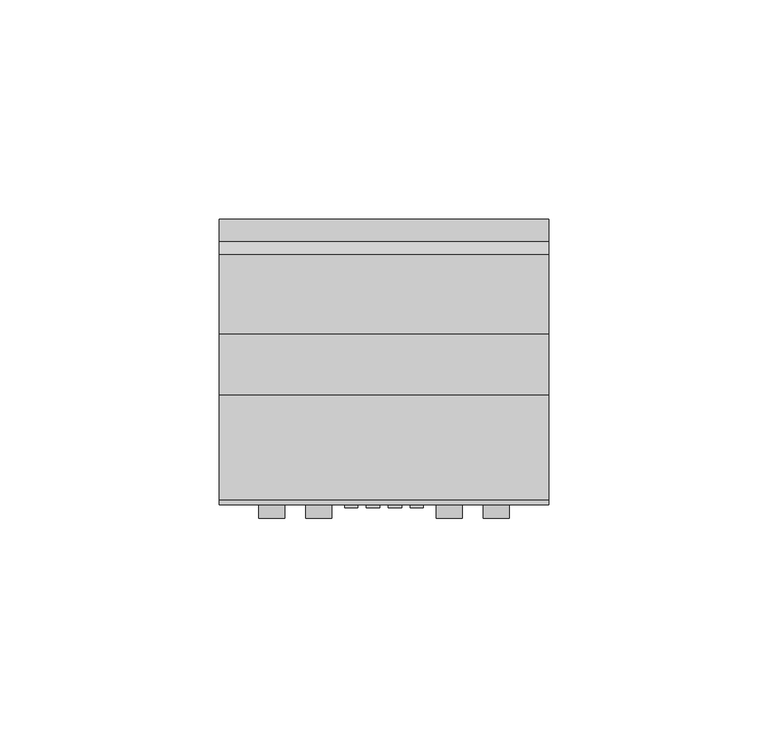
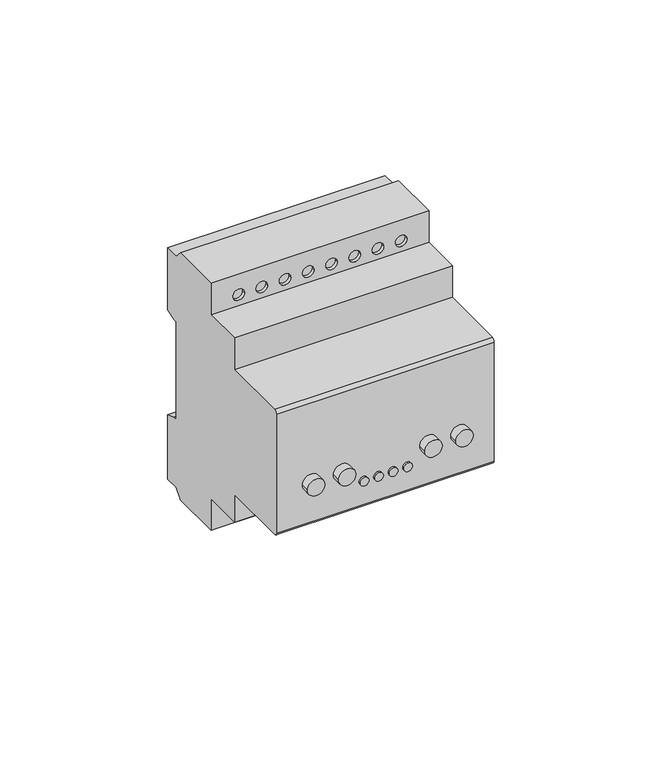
"""IFC4 building model written with IfcOpenShell, lengths in millimetres: proxy geometry, TDM_ПЕРЕКЛЮЧАТЕЛЬ ФАЗ ПФ-01 : 3х16А."""

from ifc_helpers import new_model, si_unit, point, frame, frame_2d, origin, place, context, project, spatial, polyline, circle_curve, trimmed, segment, composite_curve, outline, extrude, source, transform, mapped, element, save
from ifc_brep_helpers import plane_surface, cylinder_surface, revolved_surface, advanced_brep


def electrical_equipment_bae947ff(model_context):
    return source(origin(), model_context, "Body", "SolidModel", [
        extrude(outline(composite_curve([segment(trimmed(circle_curve(frame_2d((-13.7512085, -2.5)), 1.5), [point((-13.7512085, -4.0))], [point((-13.7512085, -1.0))], False, "CARTESIAN"), True, "CONTINUOUS"), segment(trimmed(circle_curve(frame_2d((-13.7512085, -2.5)), 1.5), [point((-13.7512085, -1.0))], [point((-13.7512085, -4.0))], False, "CARTESIAN"), True, "CONTINUOUS")], self_intersect=False)), frame((0.0, -28.1760611, 0.0), z_axis=(0.0, 1.0, 0.0), x_axis=(0.0, 0.0, 1.0)), (0.0, 0.0, 1.0), 0.6760611),
        extrude(outline(composite_curve([segment(trimmed(circle_curve(frame_2d((-13.7512085, -7.5)), 1.5), [point((-13.7512085, -9.0))], [point((-13.7512085, -6.0))], False, "CARTESIAN"), True, "CONTINUOUS"), segment(trimmed(circle_curve(frame_2d((-13.7512085, -7.5)), 1.5), [point((-13.7512085, -6.0))], [point((-13.7512085, -9.0))], False, "CARTESIAN"), True, "CONTINUOUS")], self_intersect=False)), frame((0.0, -28.1760611, 0.0), z_axis=(0.0, 1.0, 0.0), x_axis=(0.0, 0.0, 1.0)), (0.0, 0.0, 1.0), 0.6760611),
        extrude(outline(composite_curve([segment(trimmed(circle_curve(frame_2d((-13.7512085, 2.5)), 1.5), [point((-13.7512085, 4.0))], [point((-13.7512085, 1.0))], False, "CARTESIAN"), True, "CONTINUOUS"), segment(trimmed(circle_curve(frame_2d((-13.7512085, 2.5)), 1.5), [point((-13.7512085, 1.0))], [point((-13.7512085, 4.0))], False, "CARTESIAN"), True, "CONTINUOUS")], self_intersect=False)), frame((0.0, -28.1760611, 0.0), z_axis=(0.0, 1.0, 0.0), x_axis=(0.0, 0.0, 1.0)), (0.0, 0.0, 1.0), 0.6760611),
        extrude(outline(composite_curve([segment(trimmed(circle_curve(frame_2d((-13.7512085, 7.5)), 1.5), [point((-13.7512085, 9.0))], [point((-13.7512085, 6.0))], False, "CARTESIAN"), True, "CONTINUOUS"), segment(trimmed(circle_curve(frame_2d((-13.7512085, 7.5)), 1.5), [point((-13.7512085, 6.0))], [point((-13.7512085, 9.0))], False, "CARTESIAN"), True, "CONTINUOUS")], self_intersect=False)), frame((0.0, -28.1760611, 0.0), z_axis=(0.0, 1.0, 0.0), x_axis=(0.0, 0.0, 1.0)), (0.0, 0.0, 1.0), 0.6760611),
        extrude(outline(composite_curve([segment(trimmed(circle_curve(frame_2d((-8.0631041, 14.875)), 3.0), [point((-8.0631041, 17.875))], [point((-8.0631041, 11.875))], False, "CARTESIAN"), True, "CONTINUOUS"), segment(trimmed(circle_curve(frame_2d((-8.0631041, 14.875)), 3.0), [point((-8.0631041, 11.875))], [point((-8.0631041, 17.875))], False, "CARTESIAN"), True, "CONTINUOUS")], self_intersect=False)), frame((0.0, -30.5593993, 0.0), z_axis=(0.0, 1.0, 0.0), x_axis=(0.0, 0.0, 1.0)), (0.0, 0.0, 1.0), 3.0593993),
        extrude(outline(composite_curve([segment(trimmed(circle_curve(frame_2d((-8.0631041, 25.5625)), 3.0), [point((-8.0631041, 28.5625))], [point((-8.0631041, 22.5625))], False, "CARTESIAN"), True, "CONTINUOUS"), segment(trimmed(circle_curve(frame_2d((-8.0631041, 25.5625)), 3.0), [point((-8.0631041, 22.5625))], [point((-8.0631041, 28.5625))], False, "CARTESIAN"), True, "CONTINUOUS")], self_intersect=False)), frame((0.0, -30.5593993, 0.0), z_axis=(0.0, 1.0, 0.0), x_axis=(0.0, 0.0, 1.0)), (0.0, 0.0, 1.0), 3.0593993),
        extrude(outline(composite_curve([segment(trimmed(circle_curve(frame_2d((-8.0631041, -14.875)), 3.0), [point((-8.0631041, -17.875))], [point((-8.0631041, -11.875))], False, "CARTESIAN"), True, "CONTINUOUS"), segment(trimmed(circle_curve(frame_2d((-8.0631041, -14.875)), 3.0), [point((-8.0631041, -11.875))], [point((-8.0631041, -17.875))], False, "CARTESIAN"), True, "CONTINUOUS")], self_intersect=False)), frame((0.0, -30.5593993, 0.0), z_axis=(0.0, 1.0, 0.0), x_axis=(0.0, 0.0, 1.0)), (0.0, 0.0, 1.0), 3.0593993),
        extrude(outline(composite_curve([segment(trimmed(circle_curve(frame_2d((-8.0631041, -25.5625)), 3.0), [point((-8.0631041, -28.5625))], [point((-8.0631041, -22.5625))], False, "CARTESIAN"), True, "CONTINUOUS"), segment(trimmed(circle_curve(frame_2d((-8.0631041, -25.5625)), 3.0), [point((-8.0631041, -22.5625))], [point((-8.0631041, -28.5625))], False, "CARTESIAN"), True, "CONTINUOUS")], self_intersect=False)), frame((0.0, -30.5593993, 0.0), z_axis=(0.0, 1.0, 0.0), x_axis=(0.0, 0.0, 1.0)), (0.0, 0.0, 1.0), 3.0593993),
        extrude(outline(polyline([(37.0, 16.6821204), (37.0, 13.0294857), (-37.0, 13.0294857), (-37.0, 16.6821204), (37.0, 16.6821204)])), frame((0.0, 0.0, -44.0625), z_axis=(0.0, 0.0, 1.0), x_axis=(1.0, 0.0, 0.0)), (0.0, 0.0, 1.0), 87.8126081),
        advanced_brep(
        [(37.5, 32.5, 18.2057143), (37.5, 33.6916264, 18.2057143), (37.5, 37.5, 19.591849), (37.5, 37.5, 42.1013652), (37.5, 32.5, 42.1013652), (37.5, 29.6013652, 45.0), (37.5, 11.5, 45.0), (37.5, 11.5, 33.5280507), (37.5, -2.5, 33.5280507), (37.5, -2.5, 22.0), (37.5, -26.3777313, 22.0), (37.5, -27.5, 20.8777313), (37.5, -27.5, -22.3875602), (37.5, -26.3875602, -23.5), (37.5, -2.5, -23.5), (37.5, -2.5, -33.5280507), (37.5, 11.5, -33.5280507), (37.5, 11.5, -45.0), (37.5, 29.6013652, -45.0), (37.5, 32.5, -42.1013652), (37.5, 37.5, -42.1013652), (37.5, 37.5, -18.654349), (37.5, 33.7632568, -17.2942857), (37.5, 32.5, -17.2942857), (-37.5, 32.5, 18.2057143), (-37.5, 32.5, -17.2942857), (-37.5, 33.7632568, -17.2942857), (-37.5, 37.5, -18.654349), (-37.5, 37.5, -42.1013652), (-37.5, 32.5, -42.1013652), (-37.5, 29.6013652, -45.0), (-37.5, 11.5, -45.0), (-37.5, 11.5, -33.5280507), (-37.5, -2.5, -33.5280507), (-37.5, -2.5, -23.5), (-37.5, -26.3875602, -23.5), (-37.5, -27.5, -22.3875602), (-37.5, -27.5, 20.8777313), (-37.5, -26.3777313, 22.0), (-37.5, -2.5, 22.0), (-37.5, -2.5, 33.5280507), (-37.5, 11.5, 33.5280507), (-37.5, 11.5, 45.0), (-37.5, 29.6013652, 45.0), (-37.5, 32.5, 42.1013652), (-37.5, 37.5, 42.1013652), (-37.5, 37.5, 19.591849), (-37.5, 33.6916264, 18.2057143), (-2.0, 14.3335884, 37.4385116), (-6.0, 14.3335884, 37.4385116), (2.0, 14.3335884, 37.4385116), (6.0, 14.3335884, 37.4385116), (10.0, 14.3335884, 37.4385116), (14.0, 14.3335884, 37.4385116), (18.0, 14.3335884, 37.4385116), (22.0, 14.3335884, 37.4385116), (26.0, 14.3335884, 37.4385116), (30.0, 14.3335884, 37.4385116), (-10.0, 14.3335884, 37.4385116), (-14.0, 14.3335884, 37.4385116), (-18.0, 14.3335884, 37.4385116), (-22.0, 14.3335884, 37.4385116), (-26.0, 14.3335884, 37.4385116), (-30.0, 14.3335884, 37.4385116), (4.5, 14.3335884, -37.4385116), (0.5, 14.3335884, -37.4385116), (9.5, 14.3335884, -37.4385116), (5.5, 14.3335884, -37.4385116), (14.5, 14.3335884, -37.4385116), (10.5, 14.3335884, -37.4385116), (19.5, 14.3335884, -37.4385116), (15.5, 14.3335884, -37.4385116), (24.5, 14.3335884, -37.4385116), (20.5, 14.3335884, -37.4385116), (29.5, 14.3335884, -37.4385116), (25.5, 14.3335884, -37.4385116), (-4.5, 14.3335884, -37.4385116), (-0.5, 14.3335884, -37.4385116), (-9.5, 14.3335884, -37.4385116), (-5.5, 14.3335884, -37.4385116), (-14.5, 14.3335884, -37.4385116), (-10.5, 14.3335884, -37.4385116), (-19.5, 14.3335884, -37.4385116), (-15.5, 14.3335884, -37.4385116), (-24.5, 14.3335884, -37.4385116), (-20.5, 14.3335884, -37.4385116), (-29.5, 14.3335884, -37.4385116), (-25.5, 14.3335884, -37.4385116), (-6.0, 11.5, 37.4385116), (-2.0, 11.5, 37.4385116), (6.0, 11.5, 37.4385116), (2.0, 11.5, 37.4385116), (14.0, 11.5, 37.4385116), (10.0, 11.5, 37.4385116), (22.0, 11.5, 37.4385116), (18.0, 11.5, 37.4385116), (30.0, 11.5, 37.4385116), (26.0, 11.5, 37.4385116), (-14.0, 11.5, 37.4385116), (-10.0, 11.5, 37.4385116), (-22.0, 11.5, 37.4385116), (-18.0, 11.5, 37.4385116), (-30.0, 11.5, 37.4385116), (-26.0, 11.5, 37.4385116), (0.5, 11.5, -37.4385116), (4.5, 11.5, -37.4385116), (5.5, 11.5, -37.4385116), (9.5, 11.5, -37.4385116), (10.5, 11.5, -37.4385116), (14.5, 11.5, -37.4385116), (15.5, 11.5, -37.4385116), (19.5, 11.5, -37.4385116), (20.5, 11.5, -37.4385116), (24.5, 11.5, -37.4385116), (25.5, 11.5, -37.4385116), (29.5, 11.5, -37.4385116), (-0.5, 11.5, -37.4385116), (-4.5, 11.5, -37.4385116), (-5.5, 11.5, -37.4385116), (-9.5, 11.5, -37.4385116), (-10.5, 11.5, -37.4385116), (-14.5, 11.5, -37.4385116), (-15.5, 11.5, -37.4385116), (-19.5, 11.5, -37.4385116), (-20.5, 11.5, -37.4385116), (-24.5, 11.5, -37.4385116), (-25.5, 11.5, -37.4385116), (-29.5, 11.5, -37.4385116)],
        [
            (0, 1),
            (1, 2),
            (2, 3),
            (3, 4),
            (4, 5),
            (5, 6),
            (6, 7),
            (7, 8),
            (8, 9),
            (9, 10),
            (10, 11, circle_curve(frame((37.5, -26.3777313, 20.8777313), z_axis=(1.0, 0.0, 0.0), x_axis=(0.0, -1.0, 0.0)), 1.1222687)),
            (11, 12),
            (12, 13, circle_curve(frame((37.5, -26.3875602, -22.3875602), z_axis=(1.0, 0.0, 0.0), x_axis=(0.0, -1.0, 0.0)), 1.1124398)),
            (13, 14),
            (14, 15),
            (15, 16),
            (16, 17),
            (17, 18),
            (18, 19),
            (19, 20),
            (20, 21),
            (21, 22),
            (22, 23),
            (23, 0),
            (24, 25),
            (25, 26),
            (26, 27),
            (27, 28),
            (28, 29),
            (29, 30),
            (30, 31),
            (31, 32),
            (32, 33),
            (33, 34),
            (34, 35),
            (35, 36, circle_curve(frame((-37.5, -26.3875602, -22.3875602), z_axis=(-1.0, 0.0, 0.0), x_axis=(0.0, -1.0, 0.0)), 1.1124398)),
            (36, 37),
            (37, 38, circle_curve(frame((-37.5, -26.3777313, 20.8777313), z_axis=(-1.0, 0.0, 0.0), x_axis=(0.0, -1.0, 0.0)), 1.1222687)),
            (38, 39),
            (39, 40),
            (40, 41),
            (41, 42),
            (42, 43),
            (43, 44),
            (44, 45),
            (45, 46),
            (46, 47),
            (47, 24),
            (0, 24),
            (47, 1),
            (2, 46),
            (45, 3),
            (9, 39),
            (38, 10),
            (37, 11),
            (36, 12),
            (13, 35),
            (34, 14),
            (17, 31),
            (30, 18),
            (20, 28),
            (27, 21),
            (22, 26),
            (25, 23),
            (48, 49, circle_curve(frame((-4.0, 14.3335884, 37.4385116), z_axis=(0.0, -1.0, 0.0), x_axis=(-1.0, 0.0, 0.0)), 2.0)),
            (49, 48, circle_curve(frame((-4.0, 14.3335884, 37.4385116), z_axis=(0.0, -1.0, 0.0), x_axis=(-1.0, 0.0, 0.0)), 2.0)),
            (50, 51, circle_curve(frame((4.0, 14.3335884, 37.4385116), z_axis=(0.0, -1.0, 0.0), x_axis=(1.0, 0.0, 0.0)), 2.0)),
            (51, 50, circle_curve(frame((4.0, 14.3335884, 37.4385116), z_axis=(0.0, -1.0, 0.0), x_axis=(1.0, 0.0, 0.0)), 2.0)),
            (52, 53, circle_curve(frame((12.0, 14.3335884, 37.4385116), z_axis=(0.0, -1.0, 0.0), x_axis=(1.0, 0.0, 0.0)), 2.0)),
            (53, 52, circle_curve(frame((12.0, 14.3335884, 37.4385116), z_axis=(0.0, -1.0, 0.0), x_axis=(1.0, 0.0, 0.0)), 2.0)),
            (54, 55, circle_curve(frame((20.0, 14.3335884, 37.4385116), z_axis=(0.0, -1.0, 0.0), x_axis=(1.0, 0.0, 0.0)), 2.0)),
            (55, 54, circle_curve(frame((20.0, 14.3335884, 37.4385116), z_axis=(0.0, -1.0, 0.0), x_axis=(1.0, 0.0, 0.0)), 2.0)),
            (56, 57, circle_curve(frame((28.0, 14.3335884, 37.4385116), z_axis=(0.0, -1.0, 0.0), x_axis=(1.0, 0.0, 0.0)), 2.0)),
            (57, 56, circle_curve(frame((28.0, 14.3335884, 37.4385116), z_axis=(0.0, -1.0, 0.0), x_axis=(1.0, 0.0, 0.0)), 2.0)),
            (58, 59, circle_curve(frame((-12.0, 14.3335884, 37.4385116), z_axis=(0.0, -1.0, 0.0), x_axis=(-1.0, 0.0, 0.0)), 2.0)),
            (59, 58, circle_curve(frame((-12.0, 14.3335884, 37.4385116), z_axis=(0.0, -1.0, 0.0), x_axis=(-1.0, 0.0, 0.0)), 2.0)),
            (60, 61, circle_curve(frame((-20.0, 14.3335884, 37.4385116), z_axis=(0.0, -1.0, 0.0), x_axis=(-1.0, 0.0, 0.0)), 2.0)),
            (61, 60, circle_curve(frame((-20.0, 14.3335884, 37.4385116), z_axis=(0.0, -1.0, 0.0), x_axis=(-1.0, 0.0, 0.0)), 2.0)),
            (62, 63, circle_curve(frame((-28.0, 14.3335884, 37.4385116), z_axis=(0.0, -1.0, 0.0), x_axis=(-1.0, 0.0, 0.0)), 2.0)),
            (63, 62, circle_curve(frame((-28.0, 14.3335884, 37.4385116), z_axis=(0.0, -1.0, 0.0), x_axis=(-1.0, 0.0, 0.0)), 2.0)),
            (64, 65, circle_curve(frame((2.5, 14.3335884, -37.4385116), z_axis=(0.0, -1.0, 0.0), x_axis=(-1.0, 0.0, 0.0)), 2.0)),
            (65, 64, circle_curve(frame((2.5, 14.3335884, -37.4385116), z_axis=(0.0, -1.0, 0.0), x_axis=(-1.0, 0.0, 0.0)), 2.0)),
            (66, 67, circle_curve(frame((7.5, 14.3335884, -37.4385116), z_axis=(0.0, -1.0, 0.0), x_axis=(-1.0, 0.0, 0.0)), 2.0)),
            (67, 66, circle_curve(frame((7.5, 14.3335884, -37.4385116), z_axis=(0.0, -1.0, 0.0), x_axis=(-1.0, 0.0, 0.0)), 2.0)),
            (68, 69, circle_curve(frame((12.5, 14.3335884, -37.4385116), z_axis=(0.0, -1.0, 0.0), x_axis=(-1.0, 0.0, 0.0)), 2.0)),
            (69, 68, circle_curve(frame((12.5, 14.3335884, -37.4385116), z_axis=(0.0, -1.0, 0.0), x_axis=(-1.0, 0.0, 0.0)), 2.0)),
            (70, 71, circle_curve(frame((17.5, 14.3335884, -37.4385116), z_axis=(0.0, -1.0, 0.0), x_axis=(-1.0, 0.0, 0.0)), 2.0)),
            (71, 70, circle_curve(frame((17.5, 14.3335884, -37.4385116), z_axis=(0.0, -1.0, 0.0), x_axis=(-1.0, 0.0, 0.0)), 2.0)),
            (72, 73, circle_curve(frame((22.5, 14.3335884, -37.4385116), z_axis=(0.0, -1.0, 0.0), x_axis=(-1.0, 0.0, 0.0)), 2.0)),
            (73, 72, circle_curve(frame((22.5, 14.3335884, -37.4385116), z_axis=(0.0, -1.0, 0.0), x_axis=(-1.0, 0.0, 0.0)), 2.0)),
            (74, 75, circle_curve(frame((27.5, 14.3335884, -37.4385116), z_axis=(0.0, -1.0, 0.0), x_axis=(-1.0, 0.0, 0.0)), 2.0)),
            (75, 74, circle_curve(frame((27.5, 14.3335884, -37.4385116), z_axis=(0.0, -1.0, 0.0), x_axis=(-1.0, 0.0, 0.0)), 2.0)),
            (76, 77, circle_curve(frame((-2.5, 14.3335884, -37.4385116), z_axis=(0.0, -1.0, 0.0), x_axis=(1.0, 0.0, 0.0)), 2.0)),
            (77, 76, circle_curve(frame((-2.5, 14.3335884, -37.4385116), z_axis=(0.0, -1.0, 0.0), x_axis=(1.0, 0.0, 0.0)), 2.0)),
            (78, 79, circle_curve(frame((-7.5, 14.3335884, -37.4385116), z_axis=(0.0, -1.0, 0.0), x_axis=(1.0, 0.0, 0.0)), 2.0)),
            (79, 78, circle_curve(frame((-7.5, 14.3335884, -37.4385116), z_axis=(0.0, -1.0, 0.0), x_axis=(1.0, 0.0, 0.0)), 2.0)),
            (80, 81, circle_curve(frame((-12.5, 14.3335884, -37.4385116), z_axis=(0.0, -1.0, 0.0), x_axis=(1.0, 0.0, 0.0)), 2.0)),
            (81, 80, circle_curve(frame((-12.5, 14.3335884, -37.4385116), z_axis=(0.0, -1.0, 0.0), x_axis=(1.0, 0.0, 0.0)), 2.0)),
            (82, 83, circle_curve(frame((-17.5, 14.3335884, -37.4385116), z_axis=(0.0, -1.0, 0.0), x_axis=(1.0, 0.0, 0.0)), 2.0)),
            (83, 82, circle_curve(frame((-17.5, 14.3335884, -37.4385116), z_axis=(0.0, -1.0, 0.0), x_axis=(1.0, 0.0, 0.0)), 2.0)),
            (84, 85, circle_curve(frame((-22.5, 14.3335884, -37.4385116), z_axis=(0.0, -1.0, 0.0), x_axis=(1.0, 0.0, 0.0)), 2.0)),
            (85, 84, circle_curve(frame((-22.5, 14.3335884, -37.4385116), z_axis=(0.0, -1.0, 0.0), x_axis=(1.0, 0.0, 0.0)), 2.0)),
            (86, 87, circle_curve(frame((-27.5, 14.3335884, -37.4385116), z_axis=(0.0, -1.0, 0.0), x_axis=(1.0, 0.0, 0.0)), 2.0)),
            (87, 86, circle_curve(frame((-27.5, 14.3335884, -37.4385116), z_axis=(0.0, -1.0, 0.0), x_axis=(1.0, 0.0, 0.0)), 2.0)),
            (6, 42),
            (41, 7),
            (88, 89, circle_curve(frame((-4.0, 11.5, 37.4385116), z_axis=(0.0, 1.0, 0.0), x_axis=(-1.0, 0.0, 0.0)), 2.0)),
            (89, 88, circle_curve(frame((-4.0, 11.5, 37.4385116), z_axis=(0.0, 1.0, 0.0), x_axis=(-1.0, 0.0, 0.0)), 2.0)),
            (90, 91, circle_curve(frame((4.0, 11.5, 37.4385116), z_axis=(0.0, 1.0, 0.0), x_axis=(1.0, 0.0, 0.0)), 2.0)),
            (91, 90, circle_curve(frame((4.0, 11.5, 37.4385116), z_axis=(0.0, 1.0, 0.0), x_axis=(1.0, 0.0, 0.0)), 2.0)),
            (92, 93, circle_curve(frame((12.0, 11.5, 37.4385116), z_axis=(0.0, 1.0, 0.0), x_axis=(1.0, 0.0, 0.0)), 2.0)),
            (93, 92, circle_curve(frame((12.0, 11.5, 37.4385116), z_axis=(0.0, 1.0, 0.0), x_axis=(1.0, 0.0, 0.0)), 2.0)),
            (94, 95, circle_curve(frame((20.0, 11.5, 37.4385116), z_axis=(0.0, 1.0, 0.0), x_axis=(1.0, 0.0, 0.0)), 2.0)),
            (95, 94, circle_curve(frame((20.0, 11.5, 37.4385116), z_axis=(0.0, 1.0, 0.0), x_axis=(1.0, 0.0, 0.0)), 2.0)),
            (96, 97, circle_curve(frame((28.0, 11.5, 37.4385116), z_axis=(0.0, 1.0, 0.0), x_axis=(1.0, 0.0, 0.0)), 2.0)),
            (97, 96, circle_curve(frame((28.0, 11.5, 37.4385116), z_axis=(0.0, 1.0, 0.0), x_axis=(1.0, 0.0, 0.0)), 2.0)),
            (98, 99, circle_curve(frame((-12.0, 11.5, 37.4385116), z_axis=(0.0, 1.0, 0.0), x_axis=(-1.0, 0.0, 0.0)), 2.0)),
            (99, 98, circle_curve(frame((-12.0, 11.5, 37.4385116), z_axis=(0.0, 1.0, 0.0), x_axis=(-1.0, 0.0, 0.0)), 2.0)),
            (100, 101, circle_curve(frame((-20.0, 11.5, 37.4385116), z_axis=(0.0, 1.0, 0.0), x_axis=(-1.0, 0.0, 0.0)), 2.0)),
            (101, 100, circle_curve(frame((-20.0, 11.5, 37.4385116), z_axis=(0.0, 1.0, 0.0), x_axis=(-1.0, 0.0, 0.0)), 2.0)),
            (102, 103, circle_curve(frame((-28.0, 11.5, 37.4385116), z_axis=(0.0, 1.0, 0.0), x_axis=(-1.0, 0.0, 0.0)), 2.0)),
            (103, 102, circle_curve(frame((-28.0, 11.5, 37.4385116), z_axis=(0.0, 1.0, 0.0), x_axis=(-1.0, 0.0, 0.0)), 2.0)),
            (40, 8),
            (33, 15),
            (32, 16),
            (104, 105, circle_curve(frame((2.5, 11.5, -37.4385116), z_axis=(0.0, 1.0, 0.0), x_axis=(-1.0, 0.0, 0.0)), 2.0)),
            (105, 104, circle_curve(frame((2.5, 11.5, -37.4385116), z_axis=(0.0, 1.0, 0.0), x_axis=(-1.0, 0.0, 0.0)), 2.0)),
            (106, 107, circle_curve(frame((7.5, 11.5, -37.4385116), z_axis=(0.0, 1.0, 0.0), x_axis=(-1.0, 0.0, 0.0)), 2.0)),
            (107, 106, circle_curve(frame((7.5, 11.5, -37.4385116), z_axis=(0.0, 1.0, 0.0), x_axis=(-1.0, 0.0, 0.0)), 2.0)),
            (108, 109, circle_curve(frame((12.5, 11.5, -37.4385116), z_axis=(0.0, 1.0, 0.0), x_axis=(-1.0, 0.0, 0.0)), 2.0)),
            (109, 108, circle_curve(frame((12.5, 11.5, -37.4385116), z_axis=(0.0, 1.0, 0.0), x_axis=(-1.0, 0.0, 0.0)), 2.0)),
            (110, 111, circle_curve(frame((17.5, 11.5, -37.4385116), z_axis=(0.0, 1.0, 0.0), x_axis=(-1.0, 0.0, 0.0)), 2.0)),
            (111, 110, circle_curve(frame((17.5, 11.5, -37.4385116), z_axis=(0.0, 1.0, 0.0), x_axis=(-1.0, 0.0, 0.0)), 2.0)),
            (112, 113, circle_curve(frame((22.5, 11.5, -37.4385116), z_axis=(0.0, 1.0, 0.0), x_axis=(-1.0, 0.0, 0.0)), 2.0)),
            (113, 112, circle_curve(frame((22.5, 11.5, -37.4385116), z_axis=(0.0, 1.0, 0.0), x_axis=(-1.0, 0.0, 0.0)), 2.0)),
            (114, 115, circle_curve(frame((27.5, 11.5, -37.4385116), z_axis=(0.0, 1.0, 0.0), x_axis=(-1.0, 0.0, 0.0)), 2.0)),
            (115, 114, circle_curve(frame((27.5, 11.5, -37.4385116), z_axis=(0.0, 1.0, 0.0), x_axis=(-1.0, 0.0, 0.0)), 2.0)),
            (116, 117, circle_curve(frame((-2.5, 11.5, -37.4385116), z_axis=(0.0, 1.0, 0.0), x_axis=(1.0, 0.0, 0.0)), 2.0)),
            (117, 116, circle_curve(frame((-2.5, 11.5, -37.4385116), z_axis=(0.0, 1.0, 0.0), x_axis=(1.0, 0.0, 0.0)), 2.0)),
            (118, 119, circle_curve(frame((-7.5, 11.5, -37.4385116), z_axis=(0.0, 1.0, 0.0), x_axis=(1.0, 0.0, 0.0)), 2.0)),
            (119, 118, circle_curve(frame((-7.5, 11.5, -37.4385116), z_axis=(0.0, 1.0, 0.0), x_axis=(1.0, 0.0, 0.0)), 2.0)),
            (120, 121, circle_curve(frame((-12.5, 11.5, -37.4385116), z_axis=(0.0, 1.0, 0.0), x_axis=(1.0, 0.0, 0.0)), 2.0)),
            (121, 120, circle_curve(frame((-12.5, 11.5, -37.4385116), z_axis=(0.0, 1.0, 0.0), x_axis=(1.0, 0.0, 0.0)), 2.0)),
            (122, 123, circle_curve(frame((-17.5, 11.5, -37.4385116), z_axis=(0.0, 1.0, 0.0), x_axis=(1.0, 0.0, 0.0)), 2.0)),
            (123, 122, circle_curve(frame((-17.5, 11.5, -37.4385116), z_axis=(0.0, 1.0, 0.0), x_axis=(1.0, 0.0, 0.0)), 2.0)),
            (124, 125, circle_curve(frame((-22.5, 11.5, -37.4385116), z_axis=(0.0, 1.0, 0.0), x_axis=(1.0, 0.0, 0.0)), 2.0)),
            (125, 124, circle_curve(frame((-22.5, 11.5, -37.4385116), z_axis=(0.0, 1.0, 0.0), x_axis=(1.0, 0.0, 0.0)), 2.0)),
            (126, 127, circle_curve(frame((-27.5, 11.5, -37.4385116), z_axis=(0.0, 1.0, 0.0), x_axis=(1.0, 0.0, 0.0)), 2.0)),
            (127, 126, circle_curve(frame((-27.5, 11.5, -37.4385116), z_axis=(0.0, 1.0, 0.0), x_axis=(1.0, 0.0, 0.0)), 2.0)),
            (44, 4),
            (43, 5),
            (29, 19),
            (48, 89),
            (88, 49),
            (50, 91),
            (90, 51),
            (52, 93),
            (92, 53),
            (54, 95),
            (94, 55),
            (56, 97),
            (96, 57),
            (58, 99),
            (98, 59),
            (60, 101),
            (100, 61),
            (62, 103),
            (102, 63),
            (64, 105),
            (104, 65),
            (66, 107),
            (106, 67),
            (68, 109),
            (108, 69),
            (70, 111),
            (110, 71),
            (72, 113),
            (112, 73),
            (74, 115),
            (114, 75),
            (76, 117),
            (116, 77),
            (78, 119),
            (118, 79),
            (80, 121),
            (120, 81),
            (82, 123),
            (122, 83),
            (84, 125),
            (124, 85),
            (86, 127),
            (126, 87),
        ],
        [
            plane_surface(frame((37.5, 31.7632568, 18.2057143), z_axis=(1.0, 0.0, 0.0), x_axis=(0.0, 1.0, 0.0))),
            plane_surface(frame((-37.5, 31.7632568, 18.2057143), z_axis=(-1.0, 0.0, 0.0), x_axis=(0.0, -1.0, 0.0))),
            plane_surface(frame((37.5, 32.5, 18.2057143), z_axis=(0.0, 0.0, -1.0), x_axis=(-1.0, 0.0, 0.0))),
            plane_surface(frame((37.5, 37.5, 19.591849), z_axis=(0.0, 1.0, 0.0), x_axis=(-1.0, 0.0, 0.0))),
            plane_surface(frame((37.5, -2.5, 22.0), z_axis=(0.0, 0.0, 1.0), x_axis=(-1.0, 0.0, 0.0))),
            cylinder_surface(frame((-37.5, -26.3777313, 20.8777313), z_axis=(1.0, 0.0, 0.0), x_axis=(0.0, -1.0, 0.0)), 1.1222687),
            plane_surface(frame((37.5, -27.5, 20.8777313), z_axis=(0.0, -1.0, 0.0), x_axis=(-1.0, 0.0, 0.0))),
            plane_surface(frame((37.5, -26.3875602, -23.5), z_axis=(0.0, 0.0, -1.0), x_axis=(-1.0, 0.0, 0.0))),
            plane_surface(frame((37.5, 11.5, -45.0), z_axis=(0.0, 0.0, -1.0), x_axis=(-1.0, 0.0, 0.0))),
            plane_surface(frame((37.5, 37.5, -42.1013652), z_axis=(0.0, 1.0, 0.0), x_axis=(-1.0, 0.0, 0.0))),
            plane_surface(frame((37.5, 33.7632568, -17.2942857), z_axis=(0.0, 0.0, 1.0), x_axis=(-1.0, 0.0, 0.0))),
            plane_surface(frame((37.5, 32.5, -17.2942857), z_axis=(0.0, 1.0, 0.0), x_axis=(-1.0, 0.0, 0.0))),
            cylinder_surface(frame((-37.5, -26.3875602, -22.3875602), z_axis=(1.0, 0.0, 0.0), x_axis=(0.0, -1.0, 0.0)), 1.1124398),
            plane_surface(frame((-6.0, 14.3335884, 37.4385116), z_axis=(0.0, -1.0, 0.0), x_axis=(0.0, 0.0, 1.0))),
            plane_surface(frame((37.5, 11.5, 45.0), z_axis=(0.0, -1.0, 0.0), x_axis=(-1.0, 0.0, 0.0))),
            plane_surface(frame((37.5, 11.5, 33.5280507), z_axis=(0.0, 0.0, 1.0), x_axis=(-1.0, 0.0, 0.0))),
            plane_surface(frame((37.5, -2.5, 33.5280507), z_axis=(0.0, -1.0, 0.0), x_axis=(-1.0, 0.0, 0.0))),
            plane_surface(frame((37.5, -2.5, -23.5), z_axis=(0.0, -1.0, 0.0), x_axis=(-1.0, 0.0, 0.0))),
            plane_surface(frame((37.5, -2.5, -33.5280507), z_axis=(0.0, 0.0, -1.0), x_axis=(-1.0, 0.0, 0.0))),
            plane_surface(frame((37.5, 11.5, -33.5280507), z_axis=(0.0, -1.0, 0.0), x_axis=(-1.0, 0.0, 0.0))),
            plane_surface(frame((37.5, 33.6916264, 18.2057143), z_axis=(0.0, 0.3420201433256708, -0.9396926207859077), x_axis=(-1.0, 0.0, 0.0))),
            plane_surface(frame((37.5, 37.5, 42.1013652), z_axis=(0.0, 0.0, 1.0), x_axis=(-1.0, 0.0, 0.0))),
            plane_surface(frame((37.5, 32.5, 42.1013652), z_axis=(0.0, 0.7071067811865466, 0.7071067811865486), x_axis=(-1.0, 0.0, 0.0))),
            plane_surface(frame((37.5, 29.6013652, 45.0), z_axis=(0.0, 0.0, 1.0), x_axis=(-1.0, 0.0, 0.0))),
            plane_surface(frame((37.5, 29.6013652, -45.0), z_axis=(0.0, 0.7071067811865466, -0.7071067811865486), x_axis=(-1.0, 0.0, 0.0))),
            plane_surface(frame((37.5, 32.5, -42.1013652), z_axis=(0.0, 0.0, -1.0), x_axis=(-1.0, 0.0, 0.0))),
            plane_surface(frame((37.5, 37.5, -18.654349), z_axis=(0.0, 0.34202014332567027, 0.9396926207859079), x_axis=(-1.0, 0.0, 0.0))),
            revolved_surface(polyline([(-6.0, 11.5, 37.4385116), (-6.0, 14.3335884, 37.4385116)]), (-4.0, 14.3335884, 37.4385116), (0.0, -1.0, 0.0)),
            revolved_surface(polyline([(6.0, 11.5, 37.4385116), (6.0, 14.3335884, 37.4385116)]), (4.0, 0.0, 37.4385116), (0.0, -1.0, 0.0)),
            revolved_surface(polyline([(14.0, 11.5, 37.4385116), (14.0, 14.3335884, 37.4385116)]), (12.0, 0.0, 37.4385116), (0.0, -1.0, 0.0)),
            revolved_surface(polyline([(22.0, 11.5, 37.4385116), (22.0, 14.3335884, 37.4385116)]), (20.0, 0.0, 37.4385116), (0.0, -1.0, 0.0)),
            revolved_surface(polyline([(30.0, 11.5, 37.4385116), (30.0, 14.3335884, 37.4385116)]), (28.0, 0.0, 37.4385116), (0.0, -1.0, 0.0)),
            revolved_surface(polyline([(-14.0, 11.5, 37.4385116), (-14.0, 14.3335884, 37.4385116)]), (-12.0, 0.0, 37.4385116), (0.0, -1.0, 0.0)),
            revolved_surface(polyline([(-22.0, 11.5, 37.4385116), (-22.0, 14.3335884, 37.4385116)]), (-20.0, 0.0, 37.4385116), (0.0, -1.0, 0.0)),
            revolved_surface(polyline([(-30.0, 11.5, 37.4385116), (-30.0, 14.3335884, 37.4385116)]), (-28.0, 0.0, 37.4385116), (0.0, -1.0, 0.0)),
            revolved_surface(polyline([(0.5, 11.5, -37.4385116), (0.5, 14.3335884, -37.4385116)]), (2.5, 0.0, -37.4385116), (0.0, -1.0, 0.0)),
            revolved_surface(polyline([(5.5, 11.5, -37.4385116), (5.5, 14.3335884, -37.4385116)]), (7.5, 0.0, -37.4385116), (0.0, -1.0, 0.0)),
            revolved_surface(polyline([(10.5, 11.5, -37.4385116), (10.5, 14.3335884, -37.4385116)]), (12.5, 0.0, -37.4385116), (0.0, -1.0, 0.0)),
            revolved_surface(polyline([(15.5, 11.5, -37.4385116), (15.5, 14.3335884, -37.4385116)]), (17.5, 0.0, -37.4385116), (0.0, -1.0, 0.0)),
            revolved_surface(polyline([(20.5, 11.5, -37.4385116), (20.5, 14.3335884, -37.4385116)]), (22.5, 0.0, -37.4385116), (0.0, -1.0, 0.0)),
            revolved_surface(polyline([(25.5, 11.5, -37.4385116), (25.5, 14.3335884, -37.4385116)]), (27.5, 0.0, -37.4385116), (0.0, -1.0, 0.0)),
            revolved_surface(polyline([(-0.5, 11.5, -37.4385116), (-0.5, 14.3335884, -37.4385116)]), (-2.5, 0.0, -37.4385116), (0.0, -1.0, 0.0)),
            revolved_surface(polyline([(-5.5, 11.5, -37.4385116), (-5.5, 14.3335884, -37.4385116)]), (-7.5, 0.0, -37.4385116), (0.0, -1.0, 0.0)),
            revolved_surface(polyline([(-10.5, 11.5, -37.4385116), (-10.5, 14.3335884, -37.4385116)]), (-12.5, 0.0, -37.4385116), (0.0, -1.0, 0.0)),
            revolved_surface(polyline([(-15.5, 11.5, -37.4385116), (-15.5, 14.3335884, -37.4385116)]), (-17.5, 0.0, -37.4385116), (0.0, -1.0, 0.0)),
            revolved_surface(polyline([(-20.5, 11.5, -37.4385116), (-20.5, 14.3335884, -37.4385116)]), (-22.5, 0.0, -37.4385116), (0.0, -1.0, 0.0)),
            revolved_surface(polyline([(-25.5, 11.5, -37.4385116), (-25.5, 14.3335884, -37.4385116)]), (-27.5, 0.0, -37.4385116), (0.0, -1.0, 0.0)),
        ],
        [
            (0, [[1, 2, 3, 4, 5, 6, 7, 8, 9, 10, 11, 12, 13, 14, 15, 16, 17, 18, 19, 20, 21, 22, 23, 24]]),
            (1, [[25, 26, 27, 28, 29, 30, 31, 32, 33, 34, 35, 36, 37, 38, 39, 40, 41, 42, 43, 44, 45, 46, 47, 48]]),
            (2, [[-1, 49, -48, 50]]),
            (3, [[-3, 51, -46, 52]]),
            (4, [[-10, 53, -39, 54]]),
            (5, [[-11, -54, -38, 55]]),
            (6, [[-12, -55, -37, 56]]),
            (7, [[-14, 57, -35, 58]]),
            (8, [[-18, 59, -31, 60]]),
            (9, [[-21, 61, -28, 62]]),
            (10, [[-23, 63, -26, 64]]),
            (11, [[-24, -64, -25, -49]]),
            (12, [[-13, -56, -36, -57]]),
            (13, [[65, 66]]),
            (13, [[67, 68]]),
            (13, [[69, 70]]),
            (13, [[71, 72]]),
            (13, [[73, 74]]),
            (13, [[75, 76]]),
            (13, [[77, 78]]),
            (13, [[79, 80]]),
            (13, [[81, 82]]),
            (13, [[83, 84]]),
            (13, [[85, 86]]),
            (13, [[87, 88]]),
            (13, [[89, 90]]),
            (13, [[91, 92]]),
            (13, [[93, 94]]),
            (13, [[95, 96]]),
            (13, [[97, 98]]),
            (13, [[99, 100]]),
            (13, [[101, 102]]),
            (13, [[103, 104]]),
            (14, [[-7, 105, -42, 106], [107, 108], [109, 110], [111, 112], [113, 114], [115, 116], [117, 118], [119, 120], [121, 122]]),
            (15, [[-8, -106, -41, 123]]),
            (16, [[-9, -123, -40, -53]]),
            (17, [[-15, -58, -34, 124]]),
            (18, [[-16, -124, -33, 125]]),
            (19, [[-17, -125, -32, -59], [126, 127], [128, 129], [130, 131], [132, 133], [134, 135], [136, 137], [138, 139], [140, 141], [142, 143], [144, 145], [146, 147], [148, 149]]),
            (20, [[-2, -50, -47, -51]]),
            (21, [[-4, -52, -45, 150]]),
            (22, [[-5, -150, -44, 151]]),
            (23, [[-6, -151, -43, -105]]),
            (24, [[-19, -60, -30, 152]]),
            (25, [[-20, -152, -29, -61]]),
            (26, [[-22, -62, -27, -63]]),
            (27, [[-65, 153, -107, 154]]),
            (27, [[-66, -154, -108, -153]]),
            (28, [[-67, 155, -109, 156]]),
            (28, [[-68, -156, -110, -155]]),
            (29, [[-69, 157, -111, 158]]),
            (29, [[-70, -158, -112, -157]]),
            (30, [[-71, 159, -113, 160]]),
            (30, [[-72, -160, -114, -159]]),
            (31, [[-73, 161, -115, 162]]),
            (31, [[-74, -162, -116, -161]]),
            (32, [[-75, 163, -117, 164]]),
            (32, [[-76, -164, -118, -163]]),
            (33, [[-77, 165, -119, 166]]),
            (33, [[-78, -166, -120, -165]]),
            (34, [[-79, 167, -121, 168]]),
            (34, [[-80, -168, -122, -167]]),
            (35, [[-81, 169, -126, 170]]),
            (35, [[-82, -170, -127, -169]]),
            (36, [[-83, 171, -128, 172]]),
            (36, [[-84, -172, -129, -171]]),
            (37, [[-85, 173, -130, 174]]),
            (37, [[-86, -174, -131, -173]]),
            (38, [[-87, 175, -132, 176]]),
            (38, [[-88, -176, -133, -175]]),
            (39, [[-89, 177, -134, 178]]),
            (39, [[-90, -178, -135, -177]]),
            (40, [[-91, 179, -136, 180]]),
            (40, [[-92, -180, -137, -179]]),
            (41, [[-93, 181, -138, 182]]),
            (41, [[-94, -182, -139, -181]]),
            (42, [[-95, 183, -140, 184]]),
            (42, [[-96, -184, -141, -183]]),
            (43, [[-97, 185, -142, 186]]),
            (43, [[-98, -186, -143, -185]]),
            (44, [[-99, 187, -144, 188]]),
            (44, [[-100, -188, -145, -187]]),
            (45, [[-101, 189, -146, 190]]),
            (45, [[-102, -190, -147, -189]]),
            (46, [[-103, 191, -148, 192]]),
            (46, [[-104, -192, -149, -191]]),
        ],
    ),
    ])


if __name__ == "__main__":
    model = new_model("IFC4")
    model_context = context("Model", 3, world=origin())
    ifc_project = project(units=[si_unit("LENGTHUNIT", "METRE", prefix="MILLI")], contexts=[model_context])
    site = spatial("IfcSite", under=ifc_project)
    building = spatial("IfcBuilding", under=site)
    placement = place(None, origin())
    electrical_equipment_shape = electrical_equipment_bae947ff(model_context)
    element("IfcBuildingElementProxy", 1, Name="TDM_ПЕРЕКЛЮЧАТЕЛЬ ФАЗ ПФ-01 : 3х16А", ObjectType="TDM_ПЕРЕКЛЮЧАТЕЛЬ ФАЗ ПФ-01 : 3х16А", at=placement, inside=building, context=model_context, shape_type="MappedRepresentation", body=[
        mapped(electrical_equipment_shape, transform((0.0, 0.0, 0.0), x_axis=(1.0, 0.0, 0.0), y_axis=(0.0, 1.0, 0.0), z_axis=(0.0, 0.0, 1.0))),
    ])
    save(model, "model.ifc")
